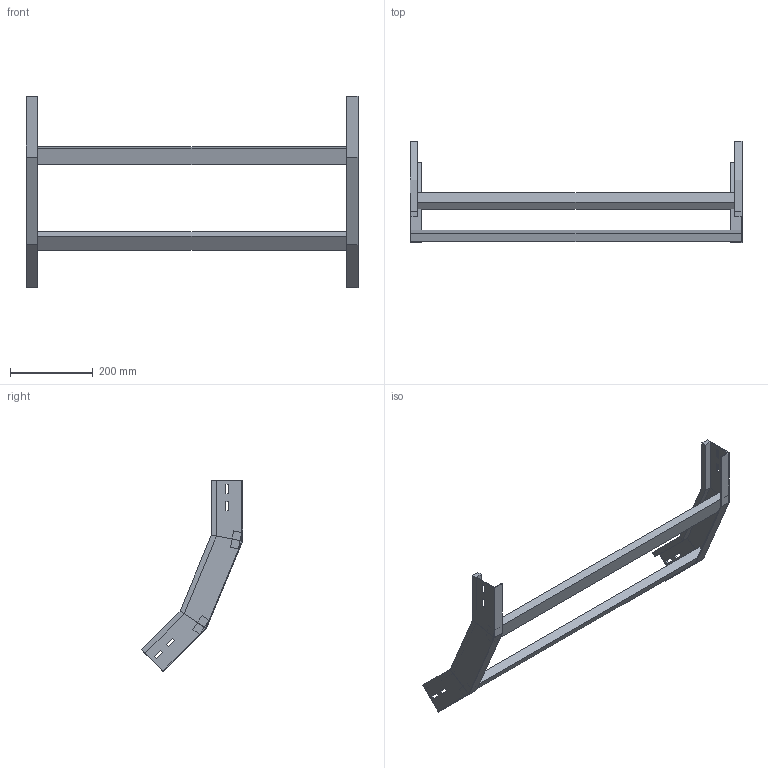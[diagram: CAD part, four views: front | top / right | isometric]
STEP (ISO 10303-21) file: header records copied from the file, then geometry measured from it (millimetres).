
FILE_DESCRIPTION (( 'STEP AP214' ), '1' );
FILE_NAME ('A2X31B5C800XX.step', '2025-03-20T10:09:50', ( '' ), ( '' ), 'SwSTEP 2.0', 'SolidWorks 2023', '' );
FILE_SCHEMA (( 'AUTOMOTIVE_DESIGN' ));
Length unit declared in the file: millimetre
Products named in the file (3): A2X31B5C800XX; TRAVERSINO_800; LONGH.SALITA_45°_H75_R500
Assembly tree (4 placements, depth 2):
  A2X31B5C800XX
    LONGH.SALITA_45°_H75_R500  x2
    TRAVERSINO_800  x2
Bounding box: 800 x 244.02 x 461.09 mm (x, y, z)
Volume: 1665721.5 mm3; surface area: 429221.9 mm2
Topology: 4 solids, 4 shells, 96 faces, 232 edges, 144 vertices
Faces by surface type: plane 96
Entity records: 1472 total; most frequent: CARTESIAN_POINT 243, ORIENTED_EDGE 232, DIRECTION 226, LINE 116, VECTOR 116, EDGE_CURVE 116, VERTEX_POINT 72, EDGE_LOOP 56
